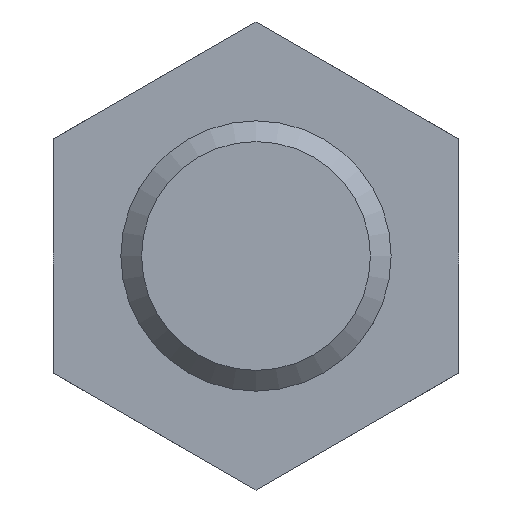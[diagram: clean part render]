
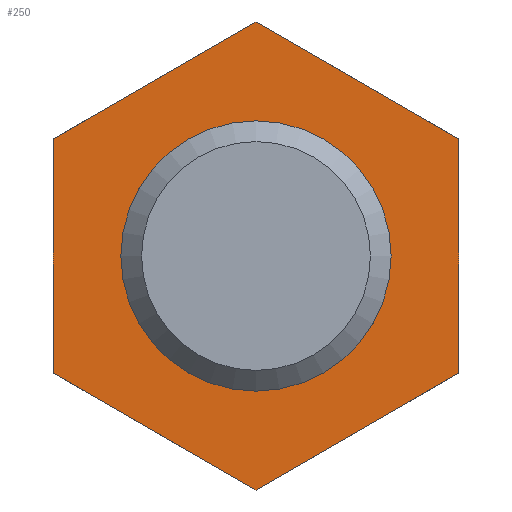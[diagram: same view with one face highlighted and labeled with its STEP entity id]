
A CAD part, front view. The second image highlights one B-rep face of the part: STEP entity #250.
In plain terms, the highlighted planar face has unit normal (0, -1, 0).
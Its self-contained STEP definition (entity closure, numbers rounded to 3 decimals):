
#14=LINE($,#421,#26);
#17=LINE($,#426,#29);
#19=LINE($,#430,#31);
#21=LINE($,#435,#33);
#23=LINE($,#438,#35);
#24=LINE($,#440,#36);
#26=VECTOR($,#322,20.785);
#29=VECTOR($,#327,20.785);
#31=VECTOR($,#331,20.785);
#33=VECTOR($,#335,20.785);
#35=VECTOR($,#339,20.785);
#36=VECTOR($,#342,20.785);
#56=PLANE($,#279);
#61=FACE_BOUND($,#96,.T.);
#62=FACE_BOUND($,#97,.T.);
#96=EDGE_LOOP($,(#215));
#97=EDGE_LOOP($,(#216,#217,#218,#219,#220,#221));
#101=CIRCLE($,#259,12.);
#110=VERTEX_POINT($,#354);
#123=VERTEX_POINT($,#418);
#124=VERTEX_POINT($,#420);
#125=VERTEX_POINT($,#424);
#126=VERTEX_POINT($,#428);
#127=VERTEX_POINT($,#432);
#128=VERTEX_POINT($,#434);
#131=EDGE_CURVE($,#110,#110,#101,.T.);
#151=EDGE_CURVE($,#124,#123,#14,.T.);
#154=EDGE_CURVE($,#123,#125,#17,.T.);
#156=EDGE_CURVE($,#125,#126,#19,.T.);
#158=EDGE_CURVE($,#128,#127,#21,.T.);
#160=EDGE_CURVE($,#127,#124,#23,.T.);
#161=EDGE_CURVE($,#126,#128,#24,.T.);
#215=ORIENTED_EDGE($,*,*,#131,.T.);
#216=ORIENTED_EDGE($,*,*,#161,.T.);
#217=ORIENTED_EDGE($,*,*,#158,.T.);
#218=ORIENTED_EDGE($,*,*,#160,.T.);
#219=ORIENTED_EDGE($,*,*,#151,.T.);
#220=ORIENTED_EDGE($,*,*,#154,.T.);
#221=ORIENTED_EDGE($,*,*,#156,.T.);
#250=ADVANCED_FACE($,(#61,#62),#56,.T.);
#259=AXIS2_PLACEMENT_3D($,#355,#291,#292);
#279=AXIS2_PLACEMENT_3D($,#441,#343,#344);
#291=DIRECTION('center_axis',(0.,1.,0.));
#292=DIRECTION('ref_axis',(-1.,0.,0.));
#322=DIRECTION($,(-0.866,0.,0.5));
#327=DIRECTION($,(-0.866,0.,-0.5));
#331=DIRECTION($,(0.,0.,-1.));
#335=DIRECTION($,(0.866,0.,0.5));
#339=DIRECTION($,(0.,0.,1.));
#342=DIRECTION($,(0.866,0.,-0.5));
#343=DIRECTION('center_axis',(0.,-1.,0.));
#344=DIRECTION('ref_axis',(0.,0.,-1.));
#354=CARTESIAN_POINT('',(12.,0.,0.));
#355=CARTESIAN_POINT('Origin',(0.,0.,0.));
#418=CARTESIAN_POINT('',(0.,0.,20.785));
#420=CARTESIAN_POINT('',(18.,0.,10.392));
#421=CARTESIAN_POINT($,(18.,0.,10.392));
#424=CARTESIAN_POINT('',(-18.,0.,10.392));
#426=CARTESIAN_POINT($,(0.,0.,20.785));
#428=CARTESIAN_POINT('',(-18.,0.,-10.392));
#430=CARTESIAN_POINT($,(-18.,0.,10.392));
#432=CARTESIAN_POINT('',(18.,0.,-10.392));
#434=CARTESIAN_POINT('',(0.,0.,-20.785));
#435=CARTESIAN_POINT($,(0.,0.,-20.785));
#438=CARTESIAN_POINT($,(18.,0.,-10.392));
#440=CARTESIAN_POINT($,(-18.,0.,-10.392));
#441=CARTESIAN_POINT('Origin',(0.,0.,0.));
